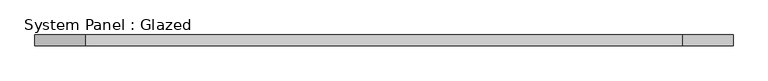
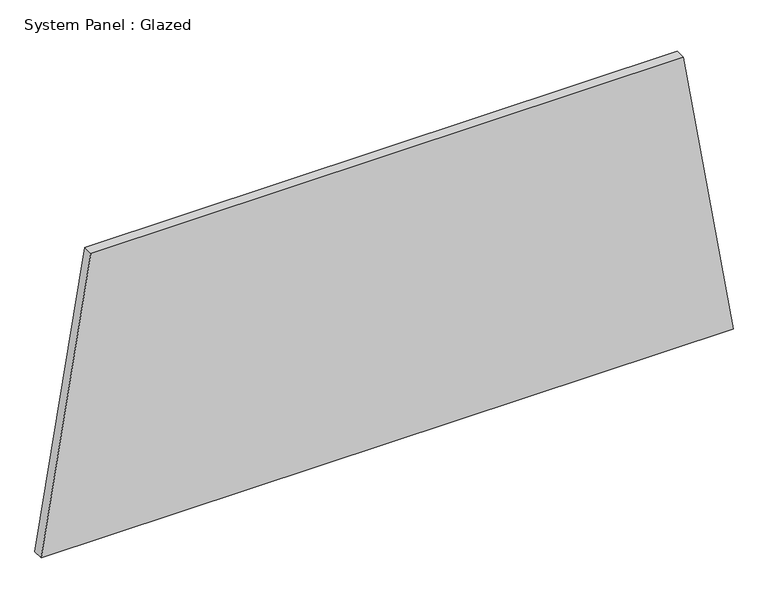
"""IFC4 building model written with IfcOpenShell, lengths in millimetres: plate geometry, System Panel : Glazed."""

from ifc_helpers import new_model, si_unit, frame, origin, place, context, project, spatial, polyline, outline, extrude, source, transform, mapped, element, save


def system_panel_glazed_dbff668c(model_context):
    return source(origin(), model_context, "Body", "SweptSolid", [
        extrude(outline(polyline([(0.0, -825.0097424), (0.0, 825.0097424), (726.6823754, 706.6080798), (726.6823754, -706.6080798), (0.0, -825.0097424)])), frame((0.0, -44.45, 0.0), z_axis=(0.0, 1.0, 0.0), x_axis=(0.0, 0.0, 1.0)), (0.0, 0.0, 1.0), 25.4),
    ])


if __name__ == "__main__":
    model = new_model("IFC4")
    model_context = context("Model", 3, world=origin())
    ifc_project = project(units=[si_unit("LENGTHUNIT", "METRE", prefix="MILLI")], contexts=[model_context])
    site = spatial("IfcSite", under=ifc_project)
    building = spatial("IfcBuilding", under=site)
    placement = place(None, origin())
    system_panel_glazed_shape = system_panel_glazed_dbff668c(model_context)
    element("IfcPlate", 1, ObjectType="System Panel : Glazed", at=placement, inside=building, context=model_context, shape_type="MappedRepresentation", body=[
        mapped(system_panel_glazed_shape, transform((0.0, 0.0, 0.0), x_axis=(1.0, 0.0, 0.0), y_axis=(0.0, 1.0, 0.0), z_axis=(0.0, 0.0, 1.0))),
    ])
    save(model, "model.ifc")
